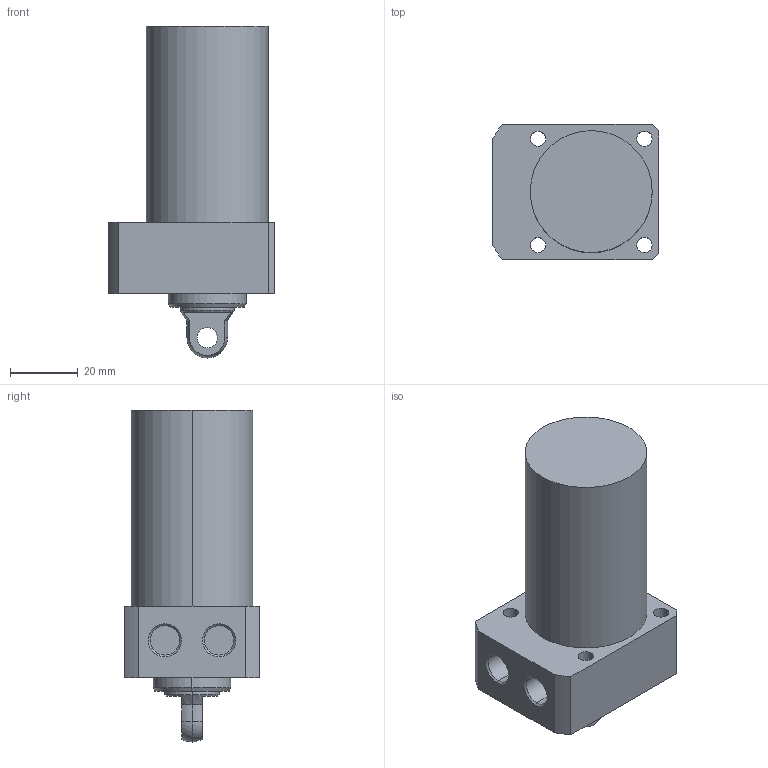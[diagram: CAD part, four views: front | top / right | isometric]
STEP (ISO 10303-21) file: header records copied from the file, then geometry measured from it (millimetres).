
FILE_DESCRIPTION (( 'STEP AP203' ), '1' );
FILE_NAME ('CLLR036-CP-50.STEP', '2017-05-10T09:02:31', ( '' ), ( '' ), 'SwSTEP 2.0', 'SolidWorks 2015', '' );
FILE_SCHEMA (( 'CONFIG_CONTROL_DESIGN' ));
Length unit declared in the file: millimetre
Products named in the file (1): CLLR036-CP-50
Bounding box: 49 x 40 x 98 mm (x, y, z)
Volume: 99582 mm3; surface area: 16583.5 mm2
Topology: 1 solids, 1 shells, 57 faces, 135 edges, 87 vertices
Faces by surface type: cylinder 29, plane 18, cone 8, sphere 2
Entity records: 1770 total; most frequent: DIRECTION 319, CARTESIAN_POINT 292, ORIENTED_EDGE 270, EDGE_CURVE 135, AXIS2_PLACEMENT_3D 130, VERTEX_POINT 87, EDGE_LOOP 74, CIRCLE 72
